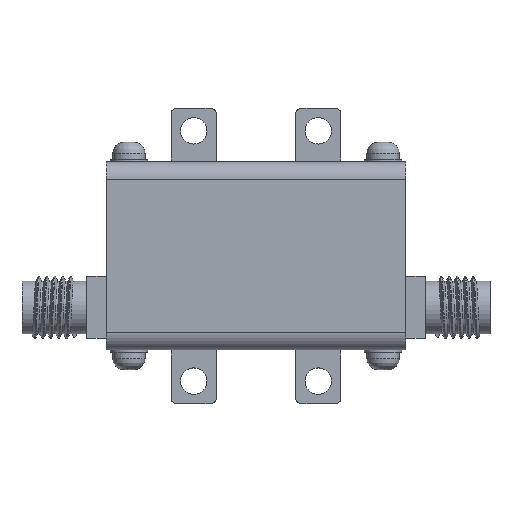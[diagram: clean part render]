
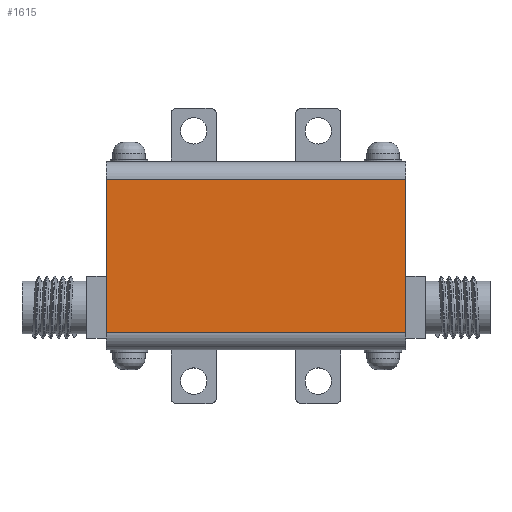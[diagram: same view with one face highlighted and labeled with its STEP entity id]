
A CAD part, top view. The second image highlights one B-rep face of the part: STEP entity #1615.
In plain terms, the highlighted planar face has unit normal (0, 0, 1).
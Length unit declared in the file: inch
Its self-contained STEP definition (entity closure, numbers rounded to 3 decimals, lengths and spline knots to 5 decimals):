
#229=FACE_OUTER_BOUND('',#329,.T.);
#329=EDGE_LOOP('',(#1236,#1237,#1238,#1239));
#449=LINE('',#2502,#573);
#451=LINE('',#2509,#575);
#474=LINE('',#2584,#598);
#475=LINE('',#2586,#599);
#573=VECTOR('',#1997,1.);
#575=VECTOR('',#2005,1.);
#598=VECTOR('',#2088,1.);
#599=VECTOR('',#2091,1.);
#710=VERTEX_POINT('',#2499);
#711=VERTEX_POINT('',#2501);
#712=VERTEX_POINT('',#2506);
#713=VERTEX_POINT('',#2508);
#892=EDGE_CURVE('',#710,#711,#449,.T.);
#896=EDGE_CURVE('',#712,#713,#451,.T.);
#934=EDGE_CURVE('',#710,#713,#474,.T.);
#935=EDGE_CURVE('',#711,#712,#475,.T.);
#1236=ORIENTED_EDGE('',*,*,#892,.F.);
#1237=ORIENTED_EDGE('',*,*,#934,.T.);
#1238=ORIENTED_EDGE('',*,*,#896,.F.);
#1239=ORIENTED_EDGE('',*,*,#935,.F.);
#1558=PLANE('',#1753);
#1615=ADVANCED_FACE('',(#229),#1558,.T.);
#1753=AXIS2_PLACEMENT_3D('',#2585,#2089,#2090);
#1997=DIRECTION('',(0.,1.,0.));
#2005=DIRECTION('',(0.,-1.,0.));
#2088=DIRECTION('',(1.,0.,0.));
#2089=DIRECTION('center_axis',(0.,0.,1.));
#2090=DIRECTION('ref_axis',(0.,-1.,0.));
#2091=DIRECTION('',(1.,0.,0.));
#2499=CARTESIAN_POINT('',(0.,0.07,0.457));
#2501=CARTESIAN_POINT('',(0.,0.684,0.457));
#2502=CARTESIAN_POINT('',(0.,0.07,0.457));
#2506=CARTESIAN_POINT('',(1.2,0.684,0.457));
#2508=CARTESIAN_POINT('',(1.2,0.07,0.457));
#2509=CARTESIAN_POINT('',(1.2,0.07,0.457));
#2584=CARTESIAN_POINT('',(0.,0.07,0.457));
#2585=CARTESIAN_POINT('Origin',(0.,0.684,0.457));
#2586=CARTESIAN_POINT('',(0.,0.684,0.457));
